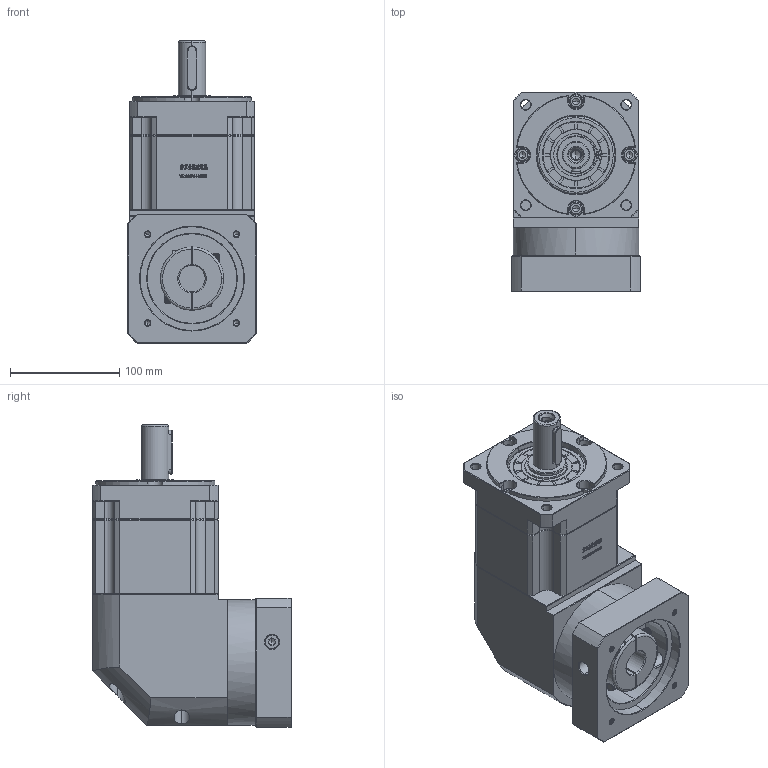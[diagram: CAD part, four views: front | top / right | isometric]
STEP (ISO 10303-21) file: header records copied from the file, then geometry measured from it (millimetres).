
FILE_DESCRIPTION (( 'STEP AP214' ), '1' );
FILE_NAME ('ZBR115A-D25-L2-24-95-115-M6.step', '2023-03-03T04:57:26', ( '' ), ( 'Microsoft' ), 'SwSTEP 2.0', 'SolidWorks 2016', '' );
FILE_SCHEMA (( 'AUTOMOTIVE_DESIGN' ));
Length unit declared in the file: millimetre
Products named in the file (1): ZBR115A-D25-L2-24-95-115-M6
Bounding box: 118 x 182.4 x 276.5 mm (x, y, z)
Volume: 3188466.5 mm3; surface area: 250489.6 mm2
Topology: 6 solids, 6 shells, 2968 faces, 7866 edges, 5043 vertices
Faces by surface type: plane 1558, bspline 610, cylinder 424, cone 368, torus 8
Entity records: 161947 total; most frequent: CARTESIAN_POINT 60511, ORIENTED_EDGE 15672, DIRECTION 11867, EDGE_CURVE 7836, LINE 5285, VECTOR 5285, VERTEX_POINT 5043, AXIS2_PLACEMENT_3D 3291
